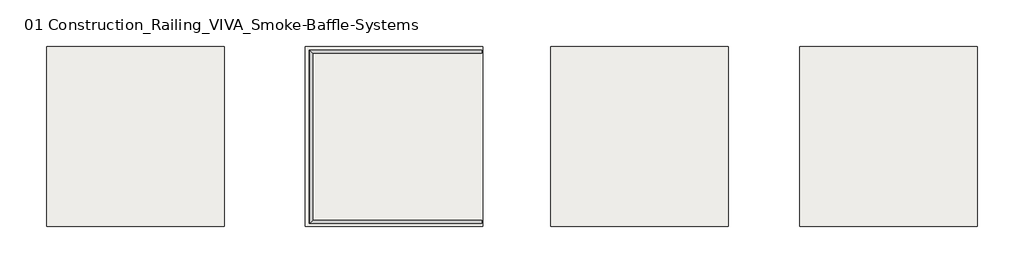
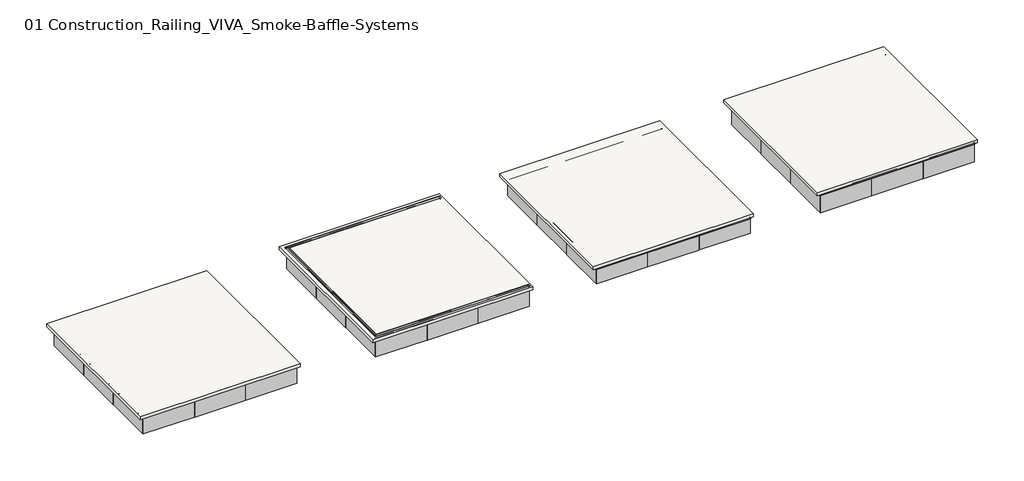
# One storey: 5 slabs, 4 railings.
"""IFC4 building model written with IfcOpenShell, lengths in millimetres."""

from ifc_helpers import new_model, si_unit, frame, origin, place, context, project, spatial, polyline, outline, extrude, transform, mapped, element, save
from components import railing_b67c2756, railing_7ec292f8, railing_280a7c18, railing_4484aca7

model = new_model("IFC4")

# Units and contexts
model_context = context("Model", 3, world=origin())
ifc_project = project(units=[si_unit("LENGTHUNIT", "METRE", prefix="MILLI")], contexts=[model_context])

# Site, building, storey
site = spatial("IfcSite", under=ifc_project)
building = spatial("IfcBuilding", under=site)
storey = spatial("IfcBuildingStorey", under=building, Name="01 Construction_Railing_VIVA_Smoke-Baffle-Systems", Elevation=0.0)

# Railings
placement = place(None, origin())
railing_shape = railing_b67c2756(model_context)
element("IfcRailing", 1, ObjectType="Railing - VIVA Railings - Smoke Baffle System - Surface Mount 2 Sides Exposed", at=placement, inside=storey, context=model_context, shape_type="MappedRepresentation", body=[
    mapped(railing_shape, transform((0.0, 0.0, 0.0), x_axis=(1.0, 0.0, 0.0), y_axis=(0.0, 1.0, 0.0), z_axis=(0.0, 0.0, 1.0))),
])
railing_2_shape = railing_7ec292f8(model_context)
element("IfcRailing", 2, ObjectType="Railing - VIVA Railings - Smoke Baffle System - Surface Mount 1 Side Exposed", at=placement, inside=storey, context=model_context, shape_type="MappedRepresentation", body=[
    mapped(railing_2_shape, transform((0.0, 0.0, 0.0), x_axis=(1.0, 0.0, 0.0), y_axis=(0.0, 1.0, 0.0), z_axis=(0.0, 0.0, 1.0))),
])
railing_3_shape = railing_280a7c18(model_context)
element("IfcRailing", 3, ObjectType="Railing - VIVA Railings - Smoke Baffle System - Insert Mount with Surface Trim", at=placement, inside=storey, context=model_context, shape_type="MappedRepresentation", body=[
    mapped(railing_3_shape, transform((0.0, 0.0, 0.0), x_axis=(1.0, 0.0, 0.0), y_axis=(0.0, 1.0, 0.0), z_axis=(0.0, 0.0, 1.0))),
])
railing_4_shape = railing_4484aca7(model_context)
element("IfcRailing", 4, ObjectType="Railing - VIVA Railings - Smoke Baffle System - Surface Mount", at=placement, inside=storey, context=model_context, shape_type="MappedRepresentation", body=[
    mapped(railing_4_shape, transform((0.0, 0.0, 0.0), x_axis=(1.0, 0.0, 0.0), y_axis=(0.0, 1.0, 0.0), z_axis=(0.0, 0.0, 1.0))),
])

# Slabs
element("IfcSlab", 5, ObjectType="Floor-Grnd-Susp_65Scr-80Ins-100Blk-75PC 2", at=placement, inside=storey, context=model_context, shape_type="SweptSolid", body=[
    extrude(outline(polyline([(9581.3395367, 8519.5335515), (9581.3395367, 4658.7335515), (5771.3395367, 4658.7335515), (5771.3395367, 8519.5335515), (9581.3395367, 8519.5335515)])), frame((0.0, 0.0, -76.2), z_axis=(0.0, 0.0, 1.0), x_axis=(1.0, 0.0, 0.0)), (0.0, 0.0, 1.0), 76.2),
])
element("IfcSlab", 6, ObjectType="Floor-Grnd-Susp_65Scr-80Ins-100Blk-75PC 2", at=placement, inside=storey, context=model_context, shape_type="SweptSolid", body=[
    extrude(outline(polyline([(14915.3395367, 8519.5335515), (14915.3395367, 4658.7335515), (11105.3395367, 4658.7335515), (11105.3395367, 8519.5335515), (14915.3395367, 8519.5335515)])), frame((0.0, 0.0, -76.2), z_axis=(0.0, 0.0, 1.0), x_axis=(1.0, 0.0, 0.0)), (0.0, 0.0, 1.0), 76.2),
])
element("IfcSlab", 7, ObjectType="Floor-Grnd-Susp_65Scr-80Ins-100Blk-75PC 2", at=placement, inside=storey, context=model_context, shape_type="SweptSolid", body=[
    extrude(outline(polyline([(11266.2297555, 4787.2554585), (11266.2297555, 8378.9090912), (14915.3395367, 8378.9090912), (14915.3395367, 4787.2554585), (11266.2297555, 4787.2554585)])), frame((0.0, 0.0, -152.4), z_axis=(0.0, 0.0, 1.0), x_axis=(1.0, 0.0, 0.0)), (0.0, 0.0, 1.0), 76.2),
])
element("IfcSlab", 8, ObjectType="Floor-Grnd-Susp_65Scr-80Ins-100Blk-75PC 2", at=placement, inside=storey, context=model_context, shape_type="SweptSolid", body=[
    extrude(outline(polyline([(4323.5395367, 8519.5335515), (4323.5395367, 4658.7335515), (513.5395367, 4658.7335515), (513.5395367, 8519.5335515), (4323.5395367, 8519.5335515)]), holes=[polyline([(4299.0565718, 8378.9090912), (4299.0565718, 8444.8554585), (608.4833882, 8444.8554585), (608.4833882, 4721.3090912), (4299.0565718, 4721.3090912), (4299.0565718, 4787.2554585), (674.4297555, 4787.2554585), (674.4297555, 8378.9090912), (4299.0565718, 8378.9090912)])]), frame((0.0, 0.0, -76.2), z_axis=(0.0, 0.0, 1.0), x_axis=(1.0, 0.0, 0.0)), (0.0, 0.0, 1.0), 76.2),
])
element("IfcSlab", 9, ObjectType="Floor-Grnd-Susp_65Scr-80Ins-100Blk-75PC 2", at=placement, inside=storey, context=model_context, shape_type="SweptSolid", body=[
    extrude(outline(polyline([(-1213.6604633, 8519.5335515), (-1213.6604633, 4658.7335515), (-5023.6604633, 4658.7335515), (-5023.6604633, 8519.5335515), (-1213.6604633, 8519.5335515)])), frame((0.0, 0.0, -76.2), z_axis=(0.0, 0.0, 1.0), x_axis=(1.0, 0.0, 0.0)), (0.0, 0.0, 1.0), 76.2),
])

save(model, "model.ifc")
